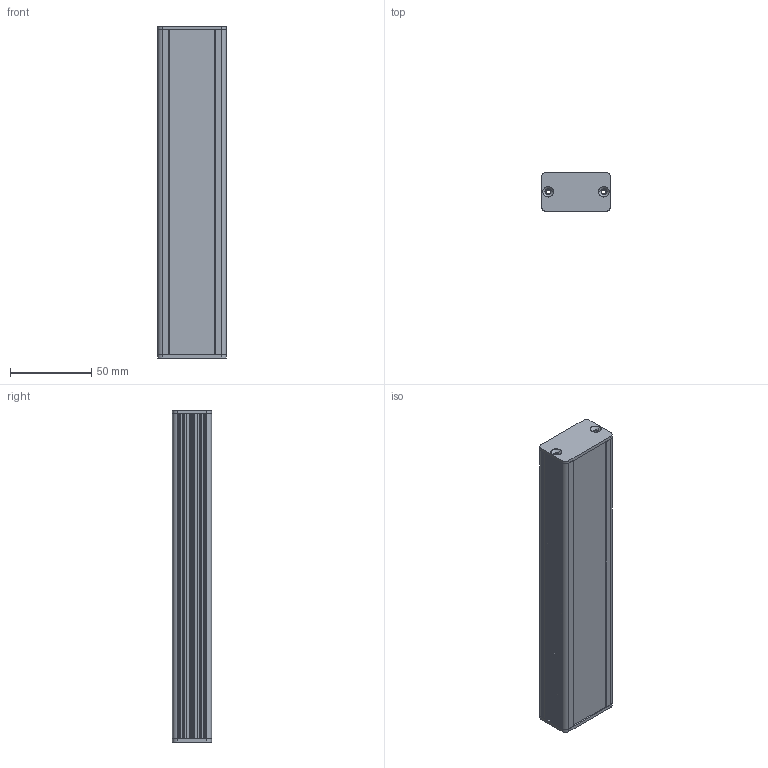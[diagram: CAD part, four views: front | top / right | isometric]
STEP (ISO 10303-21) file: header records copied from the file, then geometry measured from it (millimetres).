
FILE_DESCRIPTION (( 'STEP AP203' ), '1' );
FILE_NAME ('AL-042-20.STEP', '2026-01-23T07:36:34', ( '' ), ( '' ), 'SwSTEP 2.0', 'SolidWorks 2021', '' );
FILE_SCHEMA (( 'CONFIG_CONTROL_DESIGN' ));
Length unit declared in the file: millimetre
Products named in the file (3): AL-042-20; AL-042-30_1; AP-042
Assembly tree (3 placements, depth 2):
  AL-042-20
    AP-042
    AL-042-30_1  x2
Bounding box: 42.3 x 24 x 204 mm (x, y, z)
Volume: 55485.6 mm3; surface area: 61126.9 mm2
Topology: 3 solids, 3 shells, 250 faces, 716 edges, 472 vertices
Faces by surface type: cylinder 160, plane 82, cone 8
Entity records: 8009 total; most frequent: DIRECTION 1428, CARTESIAN_POINT 1338, ORIENTED_EDGE 1328, EDGE_CURVE 664, AXIS2_PLACEMENT_3D 530, VERTEX_POINT 440, LINE 368, VECTOR 368
